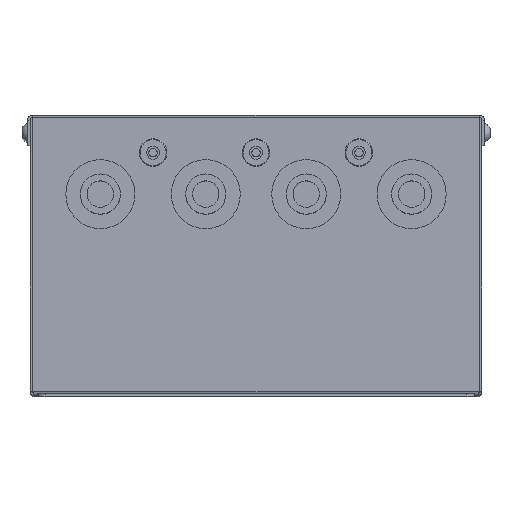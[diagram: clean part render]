
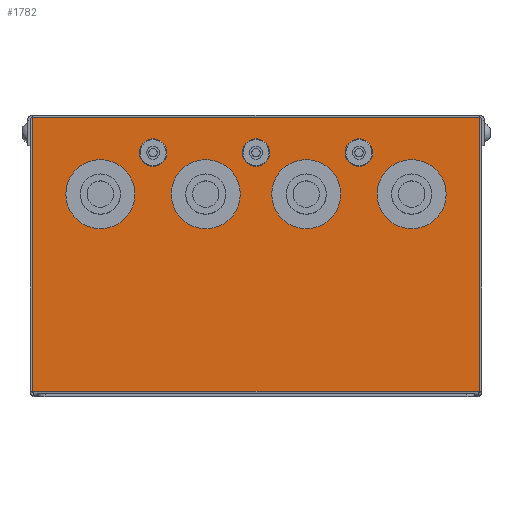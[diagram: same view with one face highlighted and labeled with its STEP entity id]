
A CAD part, top view. The second image highlights one B-rep face of the part: STEP entity #1782.
In plain terms, the highlighted planar face has unit normal (0, 0, 1).
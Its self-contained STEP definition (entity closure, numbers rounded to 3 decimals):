
#69 = EDGE_CURVE ( 'NONE', #6124, #3911, #4478, .T. ) ;
#106 = DIRECTION ( 'NONE',  ( -1., 0., 0. ) ) ;
#140 = DIRECTION ( 'NONE',  ( -1., 0., 0. ) ) ;
#146 = CARTESIAN_POINT ( 'NONE',  ( 88.859, 0., 68.5 ) ) ;
#244 = DIRECTION ( 'NONE',  ( 0., 1., 0. ) ) ;
#259 = VERTEX_POINT ( 'NONE', #4013 ) ;
#322 = CARTESIAN_POINT ( 'NONE',  ( 38.445, 96., 68.5 ) ) ;
#428 = ORIENTED_EDGE ( 'NONE', *, *, #2110, .F. ) ;
#491 = CARTESIAN_POINT ( 'NONE',  ( -88.859, 1., 68.5 ) ) ;
#496 = CARTESIAN_POINT ( 'NONE',  ( 0., 0., 68.5 ) ) ;
#562 = VERTEX_POINT ( 'NONE', #1556 ) ;
#573 = CARTESIAN_POINT ( 'NONE',  ( 41., 96., 68.5 ) ) ;
#760 = CIRCLE ( 'NONE', #2463, 2.555 ) ;
#767 = DIRECTION ( 'NONE',  ( 0., 0., 1. ) ) ;
#791 = AXIS2_PLACEMENT_3D ( 'NONE', #3002, #4934, #140 ) ;
#856 = CIRCLE ( 'NONE', #1856, 13.75 ) ;
#863 = EDGE_CURVE ( 'NONE', #2976, #6086, #3109, .T. ) ;
#1023 = ORIENTED_EDGE ( 'NONE', *, *, #1961, .F. ) ;
#1060 = DIRECTION ( 'NONE',  ( -1., 0., 0. ) ) ;
#1088 = DIRECTION ( 'NONE',  ( 0., 0., 1. ) ) ;
#1207 = LINE ( 'NONE', #146, #4186 ) ;
#1266 = DIRECTION ( 'NONE',  ( -1., 0., 0. ) ) ;
#1329 = EDGE_LOOP ( 'NONE', ( #2519 ) ) ;
#1394 = FACE_BOUND ( 'NONE', #4121, .T. ) ;
#1400 = CARTESIAN_POINT ( 'NONE',  ( 6.25, 79.5, 68.5 ) ) ;
#1455 = DIRECTION ( 'NONE',  ( 0., 0., 1. ) ) ;
#1510 = CARTESIAN_POINT ( 'NONE',  ( -20., 79.5, 68.5 ) ) ;
#1556 = CARTESIAN_POINT ( 'NONE',  ( -2.555, 96., 68.5 ) ) ;
#1661 = AXIS2_PLACEMENT_3D ( 'NONE', #5484, #767, #6059 ) ;
#1671 = EDGE_LOOP ( 'NONE', ( #2472 ) ) ;
#1696 = CARTESIAN_POINT ( 'NONE',  ( 48.25, 79.5, 68.5 ) ) ;
#1756 = CARTESIAN_POINT ( 'NONE',  ( -43.555, 96., 68.5 ) ) ;
#1777 = EDGE_LOOP ( 'NONE', ( #5674 ) ) ;
#1782 = ADVANCED_FACE ( 'NONE', ( #2343, #4289, #1394, #5268, #2377, #6233, #3242, #3863 ), #5362, .F. ) ;
#1856 = AXIS2_PLACEMENT_3D ( 'NONE', #4571, #4168, #6084 ) ;
#1960 = EDGE_CURVE ( 'NONE', #6041, #6041, #856, .T. ) ;
#1961 = EDGE_CURVE ( 'NONE', #259, #259, #6012, .T. ) ;
#2101 = VERTEX_POINT ( 'NONE', #322 ) ;
#2110 = EDGE_CURVE ( 'NONE', #2101, #2101, #760, .T. ) ;
#2153 = AXIS2_PLACEMENT_3D ( 'NONE', #3114, #4142, #5051 ) ;
#2158 = AXIS2_PLACEMENT_3D ( 'NONE', #496, #2981, #106 ) ;
#2251 = CARTESIAN_POINT ( 'NONE',  ( -88.859, 110., 68.5 ) ) ;
#2311 = VECTOR ( 'NONE', #1266, 1000. ) ;
#2343 = FACE_BOUND ( 'NONE', #3557, .T. ) ;
#2351 = VECTOR ( 'NONE', #244, 1000. ) ;
#2377 = FACE_BOUND ( 'NONE', #4182, .T. ) ;
#2463 = AXIS2_PLACEMENT_3D ( 'NONE', #573, #3974, #2620 ) ;
#2472 = ORIENTED_EDGE ( 'NONE', *, *, #3905, .F. ) ;
#2495 = DIRECTION ( 'NONE',  ( -1., 0., 0. ) ) ;
#2512 = VECTOR ( 'NONE', #5056, 1000. ) ;
#2519 = ORIENTED_EDGE ( 'NONE', *, *, #1960, .F. ) ;
#2577 = CARTESIAN_POINT ( 'NONE',  ( 0., 110., 68.5 ) ) ;
#2620 = DIRECTION ( 'NONE',  ( -1., 0., 0. ) ) ;
#2709 = CARTESIAN_POINT ( 'NONE',  ( -90., 1., 68.5 ) ) ;
#2729 = CIRCLE ( 'NONE', #4336, 13.75 ) ;
#2861 = AXIS2_PLACEMENT_3D ( 'NONE', #6264, #1455, #2495 ) ;
#2976 = VERTEX_POINT ( 'NONE', #4964 ) ;
#2981 = DIRECTION ( 'NONE',  ( 0., 0., -1. ) ) ;
#3002 = CARTESIAN_POINT ( 'NONE',  ( 0., 96., 68.5 ) ) ;
#3014 = EDGE_CURVE ( 'NONE', #2976, #6124, #1207, .T. ) ;
#3109 = LINE ( 'NONE', #2709, #2311 ) ;
#3114 = CARTESIAN_POINT ( 'NONE',  ( 20., 79.5, 68.5 ) ) ;
#3242 = FACE_BOUND ( 'NONE', #1329, .T. ) ;
#3359 = EDGE_CURVE ( 'NONE', #5688, #5688, #5606, .T. ) ;
#3484 = VERTEX_POINT ( 'NONE', #6239 ) ;
#3557 = EDGE_LOOP ( 'NONE', ( #4957 ) ) ;
#3611 = EDGE_CURVE ( 'NONE', #6086, #3911, #4607, .T. ) ;
#3637 = ORIENTED_EDGE ( 'NONE', *, *, #69, .T. ) ;
#3674 = EDGE_LOOP ( 'NONE', ( #5046 ) ) ;
#3694 = CARTESIAN_POINT ( 'NONE',  ( 88.859, 110., 68.5 ) ) ;
#3772 = EDGE_LOOP ( 'NONE', ( #3793, #4834, #3637, #5595 ) ) ;
#3793 = ORIENTED_EDGE ( 'NONE', *, *, #863, .F. ) ;
#3863 = FACE_OUTER_BOUND ( 'NONE', #3772, .T. ) ;
#3905 = EDGE_CURVE ( 'NONE', #4772, #4772, #4882, .T. ) ;
#3911 = VERTEX_POINT ( 'NONE', #2251 ) ;
#3974 = DIRECTION ( 'NONE',  ( 0., 0., 1. ) ) ;
#4013 = CARTESIAN_POINT ( 'NONE',  ( -75.75, 79.5, 68.5 ) ) ;
#4121 = EDGE_LOOP ( 'NONE', ( #428 ) ) ;
#4142 = DIRECTION ( 'NONE',  ( 0., 0., 1. ) ) ;
#4144 = DIRECTION ( 'NONE',  ( 0., 1., 0. ) ) ;
#4163 = EDGE_CURVE ( 'NONE', #562, #562, #4652, .T. ) ;
#4168 = DIRECTION ( 'NONE',  ( 0., 0., 1. ) ) ;
#4182 = EDGE_LOOP ( 'NONE', ( #1023 ) ) ;
#4186 = VECTOR ( 'NONE', #4144, 1000. ) ;
#4289 = FACE_BOUND ( 'NONE', #1777, .T. ) ;
#4336 = AXIS2_PLACEMENT_3D ( 'NONE', #1510, #1088, #1060 ) ;
#4337 = EDGE_CURVE ( 'NONE', #3484, #3484, #2729, .T. ) ;
#4478 = LINE ( 'NONE', #2577, #2512 ) ;
#4571 = CARTESIAN_POINT ( 'NONE',  ( 62., 79.5, 68.5 ) ) ;
#4607 = LINE ( 'NONE', #5482, #2351 ) ;
#4652 = CIRCLE ( 'NONE', #791, 2.555 ) ;
#4772 = VERTEX_POINT ( 'NONE', #1400 ) ;
#4834 = ORIENTED_EDGE ( 'NONE', *, *, #3014, .T. ) ;
#4882 = CIRCLE ( 'NONE', #2153, 13.75 ) ;
#4934 = DIRECTION ( 'NONE',  ( 0., 0., 1. ) ) ;
#4957 = ORIENTED_EDGE ( 'NONE', *, *, #3359, .F. ) ;
#4964 = CARTESIAN_POINT ( 'NONE',  ( 88.859, 1., 68.5 ) ) ;
#5046 = ORIENTED_EDGE ( 'NONE', *, *, #4337, .F. ) ;
#5051 = DIRECTION ( 'NONE',  ( -1., 0., 0. ) ) ;
#5056 = DIRECTION ( 'NONE',  ( -1., 0., 0. ) ) ;
#5268 = FACE_BOUND ( 'NONE', #3674, .T. ) ;
#5362 = PLANE ( 'NONE',  #2158 ) ;
#5482 = CARTESIAN_POINT ( 'NONE',  ( -88.859, 0., 68.5 ) ) ;
#5484 = CARTESIAN_POINT ( 'NONE',  ( -62., 79.5, 68.5 ) ) ;
#5595 = ORIENTED_EDGE ( 'NONE', *, *, #3611, .F. ) ;
#5606 = CIRCLE ( 'NONE', #2861, 2.555 ) ;
#5674 = ORIENTED_EDGE ( 'NONE', *, *, #4163, .F. ) ;
#5688 = VERTEX_POINT ( 'NONE', #1756 ) ;
#6012 = CIRCLE ( 'NONE', #1661, 13.75 ) ;
#6041 = VERTEX_POINT ( 'NONE', #1696 ) ;
#6059 = DIRECTION ( 'NONE',  ( -1., 0., 0. ) ) ;
#6084 = DIRECTION ( 'NONE',  ( -1., 0., 0. ) ) ;
#6086 = VERTEX_POINT ( 'NONE', #491 ) ;
#6124 = VERTEX_POINT ( 'NONE', #3694 ) ;
#6233 = FACE_BOUND ( 'NONE', #1671, .T. ) ;
#6239 = CARTESIAN_POINT ( 'NONE',  ( -33.75, 79.5, 68.5 ) ) ;
#6264 = CARTESIAN_POINT ( 'NONE',  ( -41., 96., 68.5 ) ) ;
